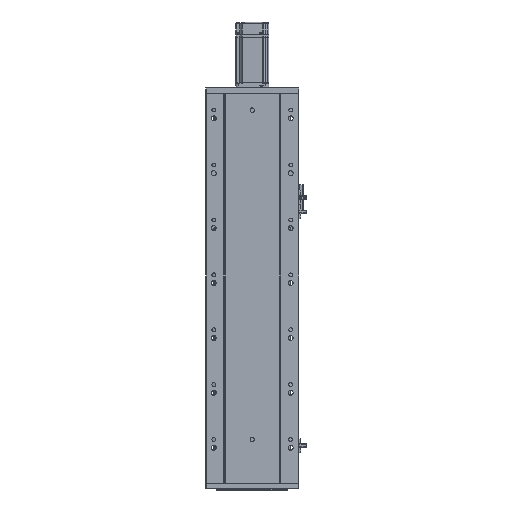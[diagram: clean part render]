
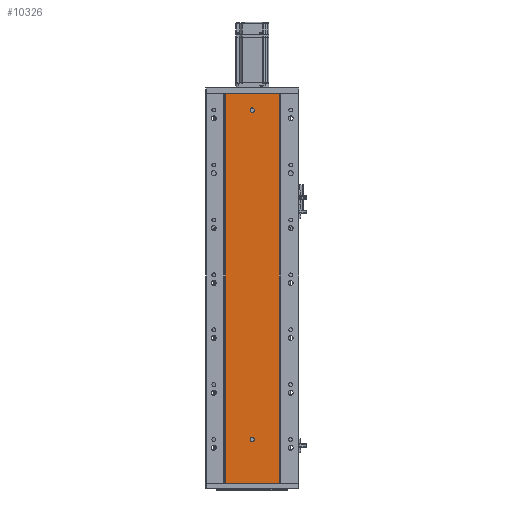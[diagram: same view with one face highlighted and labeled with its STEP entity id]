
A CAD part, front view. The second image highlights one B-rep face of the part: STEP entity #10326.
In plain terms, the highlighted planar face has unit normal (0, -1, 0).
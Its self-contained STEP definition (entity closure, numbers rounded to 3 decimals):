
#6016 = ORIENTED_EDGE ( 'NONE', *, *, #51076, .F. ) ;
#6041 = ORIENTED_EDGE ( 'NONE', *, *, #50991, .T. ) ;
#6076 = ORIENTED_EDGE ( 'NONE', *, *, #50992, .F. ) ;
#6107 = ORIENTED_EDGE ( 'NONE', *, *, #51018, .F. ) ;
#6116 = ORIENTED_EDGE ( 'NONE', *, *, #61081, .F. ) ;
#6129 = ORIENTED_EDGE ( 'NONE', *, *, #51010, .T. ) ;
#6145 = ORIENTED_EDGE ( 'NONE', *, *, #61057, .F. ) ;
#6150 = ORIENTED_EDGE ( 'NONE', *, *, #51059, .F. ) ;
#7642 = PLANE ( 'NONE',  #9058 ) ;
#7692 = DIRECTION ( 'NONE',  ( 0., 1., 0. ) ) ;
#7700 = CARTESIAN_POINT ( 'NONE',  ( 0., 79.476, 710. ) ) ;
#7718 = DIRECTION ( 'NONE',  ( 0., 0., 1. ) ) ;
#8392 = CARTESIAN_POINT ( 'NONE',  ( 136.47, 79.476, 676. ) ) ;
#8485 = CARTESIAN_POINT ( 'NONE',  ( 136.47, 79.476, 684. ) ) ;
#8511 = CARTESIAN_POINT ( 'NONE',  ( 136.47, 79.476, 84. ) ) ;
#8550 = CARTESIAN_POINT ( 'NONE',  ( 136.47, 79.476, 76. ) ) ;
#9058 = AXIS2_PLACEMENT_3D ( 'NONE', #7700, #7692, #7718 ) ;
#10326 = ADVANCED_FACE ( 'NONE', ( #18714, #18736, #18698 ), #7642, .F. ) ;
#15887 = CARTESIAN_POINT ( 'NONE',  ( 86.97, 79.476, 0. ) ) ;
#15890 = CARTESIAN_POINT ( 'NONE',  ( 185.97, 79.476, 710. ) ) ;
#15893 = CARTESIAN_POINT ( 'NONE',  ( 86.97, 79.476, 710. ) ) ;
#15896 = CARTESIAN_POINT ( 'NONE',  ( 185.97, 79.476, 0. ) ) ;
#18698 = FACE_OUTER_BOUND ( 'NONE', #32864, .T. ) ;
#18714 = FACE_BOUND ( 'NONE', #53265, .T. ) ;
#18736 = FACE_BOUND ( 'NONE', #32896, .T. ) ;
#19882 = VERTEX_POINT ( 'NONE', #8392 ) ;
#19930 = VERTEX_POINT ( 'NONE', #8485 ) ;
#19984 = VERTEX_POINT ( 'NONE', #8550 ) ;
#19989 = VERTEX_POINT ( 'NONE', #8511 ) ;
#21367 = CIRCLE ( 'NONE', #40687, 4. ) ;
#21391 = CIRCLE ( 'NONE', #40593, 4. ) ;
#22166 = DIRECTION ( 'NONE',  ( 0., -1., 0. ) ) ;
#22174 = CARTESIAN_POINT ( 'NONE',  ( 136.47, 79.476, 680. ) ) ;
#22187 = DIRECTION ( 'NONE',  ( 0., 0., -1. ) ) ;
#22206 = DIRECTION ( 'NONE',  ( 0., 0., -1. ) ) ;
#22226 = DIRECTION ( 'NONE',  ( 0., -1., 0. ) ) ;
#22227 = CARTESIAN_POINT ( 'NONE',  ( 136.47, 79.476, 80. ) ) ;
#29375 = B_SPLINE_CURVE_WITH_KNOTS ( 'NONE', 3,
 ( #35759, #35761, #35764, #35765 ),
 .UNSPECIFIED., .F., .F.,
 ( 4, 4 ),
 ( 0., 1. ),
 .UNSPECIFIED. ) ;
#29440 = B_SPLINE_CURVE_WITH_KNOTS ( 'NONE', 3,
 ( #61794, #61814, #61800, #61801 ),
 .UNSPECIFIED., .F., .F.,
 ( 4, 4 ),
 ( 0., 1. ),
 .UNSPECIFIED. ) ;
#32864 = EDGE_LOOP ( 'NONE', ( #6129, #6016, #6107, #6041 ) ) ;
#32896 = EDGE_LOOP ( 'NONE', ( #6076, #6116 ) ) ;
#35759 = CARTESIAN_POINT ( 'NONE',  ( 86.97, 79.476, 710. ) ) ;
#35761 = CARTESIAN_POINT ( 'NONE',  ( 86.97, 79.476, 473.333 ) ) ;
#35764 = CARTESIAN_POINT ( 'NONE',  ( 86.97, 79.476, 236.667 ) ) ;
#35765 = CARTESIAN_POINT ( 'NONE',  ( 86.97, 79.476, 0. ) ) ;
#35800 = DIRECTION ( 'NONE',  ( 0., -1., 0. ) ) ;
#35812 = CARTESIAN_POINT ( 'NONE',  ( 136.47, 79.476, 80. ) ) ;
#35835 = DIRECTION ( 'NONE',  ( 0., 0., -1. ) ) ;
#35839 = CARTESIAN_POINT ( 'NONE',  ( 0., 79.476, 0. ) ) ;
#35867 = DIRECTION ( 'NONE',  ( 1., 0., 0. ) ) ;
#35870 = DIRECTION ( 'NONE',  ( 1., 0., 0. ) ) ;
#35875 = CARTESIAN_POINT ( 'NONE',  ( 0., 79.476, 710. ) ) ;
#40593 = AXIS2_PLACEMENT_3D ( 'NONE', #22174, #22166, #22187 ) ;
#40687 = AXIS2_PLACEMENT_3D ( 'NONE', #22227, #22226, #22206 ) ;
#46207 = VERTEX_POINT ( 'NONE', #15893 ) ;
#46227 = VERTEX_POINT ( 'NONE', #15887 ) ;
#46231 = VERTEX_POINT ( 'NONE', #15890 ) ;
#46237 = VERTEX_POINT ( 'NONE', #15896 ) ;
#47292 = AXIS2_PLACEMENT_3D ( 'NONE', #61769, #61770, #61771 ) ;
#47319 = AXIS2_PLACEMENT_3D ( 'NONE', #35812, #35800, #35835 ) ;
#50991 = EDGE_CURVE ( 'NONE', #46207, #46227, #29375, .T. ) ;
#50992 = EDGE_CURVE ( 'NONE', #19984, #19989, #60190, .T. ) ;
#51010 = EDGE_CURVE ( 'NONE', #46227, #46237, #60258, .T. ) ;
#51018 = EDGE_CURVE ( 'NONE', #46207, #46231, #60260, .T. ) ;
#51059 = EDGE_CURVE ( 'NONE', #19882, #19930, #60437, .T. ) ;
#51076 = EDGE_CURVE ( 'NONE', #46231, #46237, #29440, .T. ) ;
#53265 = EDGE_LOOP ( 'NONE', ( #6150, #6145 ) ) ;
#60190 = CIRCLE ( 'NONE', #47319, 4. ) ;
#60258 = LINE ( 'NONE', #35839, #60296 ) ;
#60260 = LINE ( 'NONE', #35875, #60317 ) ;
#60296 = VECTOR ( 'NONE', #35867, 1000. ) ;
#60317 = VECTOR ( 'NONE', #35870, 1000. ) ;
#60437 = CIRCLE ( 'NONE', #47292, 4. ) ;
#61057 = EDGE_CURVE ( 'NONE', #19930, #19882, #21391, .T. ) ;
#61081 = EDGE_CURVE ( 'NONE', #19989, #19984, #21367, .T. ) ;
#61769 = CARTESIAN_POINT ( 'NONE',  ( 136.47, 79.476, 680. ) ) ;
#61770 = DIRECTION ( 'NONE',  ( 0., -1., 0. ) ) ;
#61771 = DIRECTION ( 'NONE',  ( 0., 0., -1. ) ) ;
#61794 = CARTESIAN_POINT ( 'NONE',  ( 185.97, 79.476, 710. ) ) ;
#61800 = CARTESIAN_POINT ( 'NONE',  ( 185.97, 79.476, 236.667 ) ) ;
#61801 = CARTESIAN_POINT ( 'NONE',  ( 185.97, 79.476, 0. ) ) ;
#61814 = CARTESIAN_POINT ( 'NONE',  ( 185.97, 79.476, 473.333 ) ) ;
